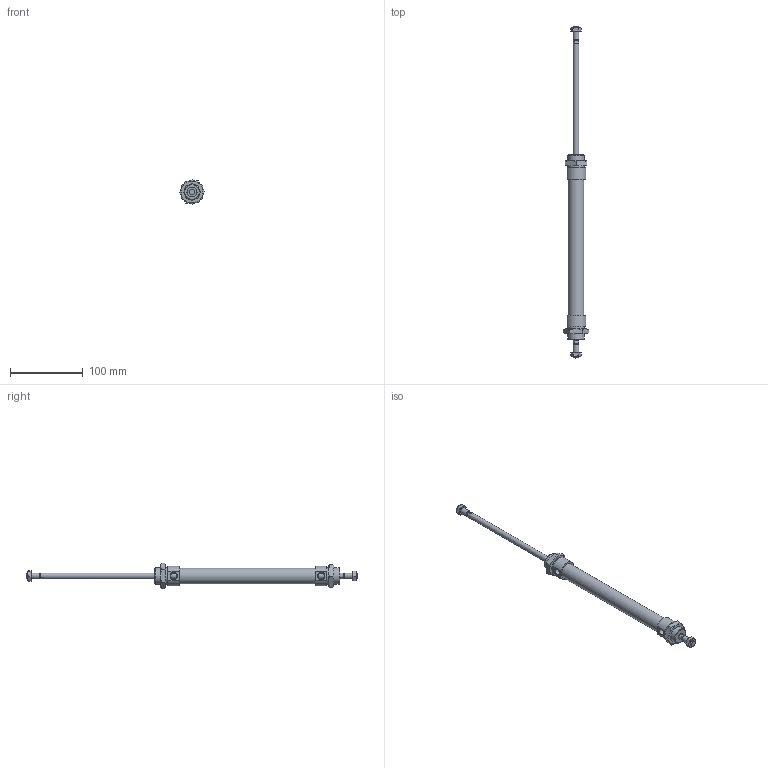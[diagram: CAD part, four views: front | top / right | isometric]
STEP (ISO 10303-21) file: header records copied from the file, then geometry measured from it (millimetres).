
FILE_DESCRIPTION((''),'2;1');
FILE_NAME('I:\Area Tecnica\Disegni\VARIE-3D\Componenti\1280\1282_##_####_#\1282_20_0150.iam.stp','2009-06-03T15:25:23',(''),(''),'Autodesk Inventor 2010','Autodesk Inventor 2010','');
FILE_SCHEMA(('AUTOMOTIVE_DESIGN { 1 0 10303 214 1 1 1 1 }'));
Length unit declared in the file: millimetre
Products named in the file (5): 1282_20_0150; C1282_20_150; S1282_20_150; 1200_20_05; 1200_20_06
Assembly tree (6 placements, depth 2):
  1282_20_0150
    C1282_20_150
    S1282_20_150
    1200_20_05  x2
    1200_20_06  x2
Bounding box: 34.64 x 456 x 34.64 mm (x, y, z)
Volume: 113156.7 mm3; surface area: 42090.2 mm2
Topology: 6 solids, 6 shells, 141 faces, 309 edges, 184 vertices
Faces by surface type: plane 60, cone 52, bspline 18, cylinder 11
Full cylindrical faces by diameter (mm): 6.5 x2, 8 x4, 21.2 x1, 22 x2
Entity records: 2813 total; most frequent: CARTESIAN_POINT 727, DIRECTION 386, ORIENTED_EDGE 352, EDGE_CURVE 176, AXIS2_PLACEMENT_3D 169, EDGE_LOOP 132, VERTEX_POINT 116, STYLED_ITEM 99
